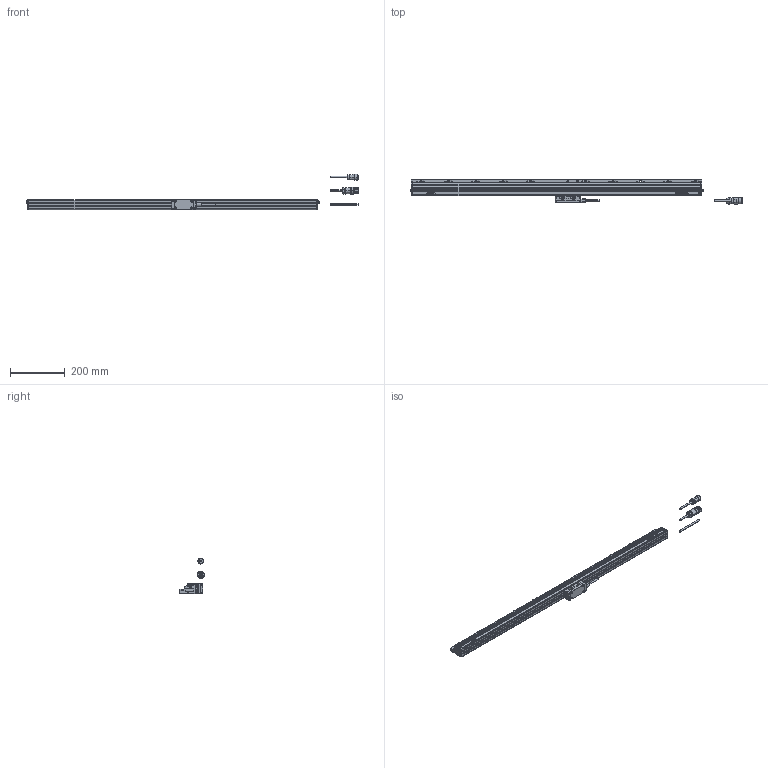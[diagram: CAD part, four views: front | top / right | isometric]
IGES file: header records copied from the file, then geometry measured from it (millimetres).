
Start section: Elysium IGES Interface
Global section: file name: 65H\\Utsu119s\kiyo_cad\data\3D\AT402E\HP掲載用_201708\AT402E-940.igs; native system: Creo Elements/Direct Modeling 18.1B  29-Sep-2012; preprocessor: Creo Element/Direct IGES_3D V2.2; author: Unknown; organization: Unknown; date: 20180221.115705; units: millimetre
Bounding box: 1209.63 x 90 x 130.25 mm (x, y, z)
Volume: 1815924.2 mm3; surface area: 244031.9 mm2
Topology: 5 solids, 5 shells, 1227 faces, 3540 edges, 2395 vertices
Faces by surface type: bspline 1227
